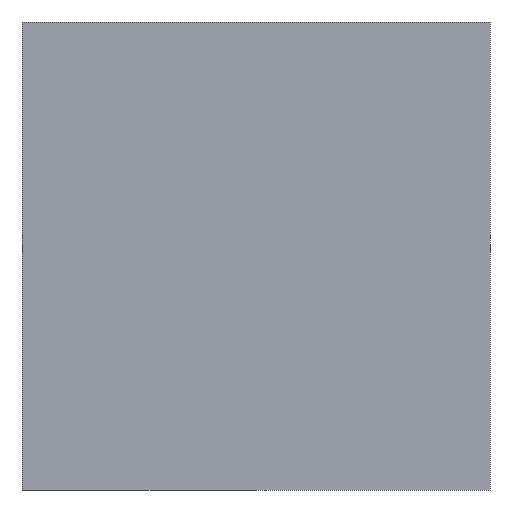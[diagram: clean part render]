
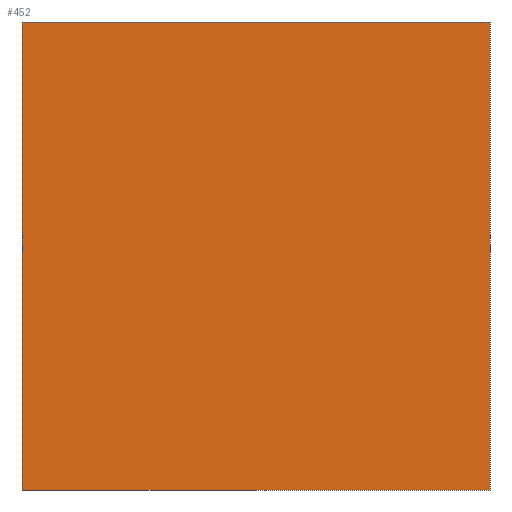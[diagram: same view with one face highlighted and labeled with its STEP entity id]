
A CAD part, left-side view. The second image highlights one B-rep face of the part: STEP entity #452.
In plain terms, the highlighted planar face has unit normal (-1, 0, 0).
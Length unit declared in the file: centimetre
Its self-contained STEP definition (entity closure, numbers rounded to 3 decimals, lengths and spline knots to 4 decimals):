
#7 = LINE ( 'NONE', #143, #449 ) ;
#11 = CARTESIAN_POINT ( 'NONE',  ( 0., 1000., 1000. ) ) ;
#19 = DIRECTION ( 'NONE',  ( 1., 0., 0. ) ) ;
#49 = CARTESIAN_POINT ( 'NONE',  ( 0., 0., 1000. ) ) ;
#50 = PLANE ( 'NONE',  #432 ) ;
#52 = LINE ( 'NONE', #49, #257 ) ;
#59 = CARTESIAN_POINT ( 'NONE',  ( 0., 1000., 0. ) ) ;
#63 = CARTESIAN_POINT ( 'NONE',  ( 0., 1000., 1000. ) ) ;
#94 = LINE ( 'NONE', #479, #296 ) ;
#98 = CARTESIAN_POINT ( 'NONE',  ( 0., 0., 1000. ) ) ;
#112 = VERTEX_POINT ( 'NONE', #98 ) ;
#121 = ORIENTED_EDGE ( 'NONE', *, *, #499, .F. ) ;
#127 = DIRECTION ( 'NONE',  ( 0., 0., -1. ) ) ;
#143 = CARTESIAN_POINT ( 'NONE',  ( 0., 1000., 1000. ) ) ;
#147 = EDGE_CURVE ( 'NONE', #112, #240, #52, .T. ) ;
#192 = EDGE_CURVE ( 'NONE', #320, #240, #415, .T. ) ;
#207 = VERTEX_POINT ( 'NONE', #63 ) ;
#210 = DIRECTION ( 'NONE',  ( 0., 0., -1. ) ) ;
#214 = DIRECTION ( 'NONE',  ( 0., -1., 0. ) ) ;
#230 = CARTESIAN_POINT ( 'NONE',  ( 0., 0., 0. ) ) ;
#240 = VERTEX_POINT ( 'NONE', #230 ) ;
#257 = VECTOR ( 'NONE', #210, 100. ) ;
#285 = VECTOR ( 'NONE', #214, 100. ) ;
#296 = VECTOR ( 'NONE', #127, 100. ) ;
#308 = EDGE_LOOP ( 'NONE', ( #434, #386, #121, #503 ) ) ;
#319 = CARTESIAN_POINT ( 'NONE',  ( 0., 1000., 0. ) ) ;
#320 = VERTEX_POINT ( 'NONE', #319 ) ;
#329 = DIRECTION ( 'NONE',  ( 0., 0., -1. ) ) ;
#372 = DIRECTION ( 'NONE',  ( 0., -1., 0. ) ) ;
#379 = FACE_OUTER_BOUND ( 'NONE', #308, .T. ) ;
#386 = ORIENTED_EDGE ( 'NONE', *, *, #147, .F. ) ;
#394 = EDGE_CURVE ( 'NONE', #207, #320, #94, .T. ) ;
#415 = LINE ( 'NONE', #59, #285 ) ;
#432 = AXIS2_PLACEMENT_3D ( 'NONE', #11, #19, #329 ) ;
#434 = ORIENTED_EDGE ( 'NONE', *, *, #192, .T. ) ;
#449 = VECTOR ( 'NONE', #372, 100. ) ;
#452 = ADVANCED_FACE ( 'NONE', ( #379 ), #50, .F. ) ;
#479 = CARTESIAN_POINT ( 'NONE',  ( 0., 1000., 1000. ) ) ;
#499 = EDGE_CURVE ( 'NONE', #207, #112, #7, .T. ) ;
#503 = ORIENTED_EDGE ( 'NONE', *, *, #394, .T. ) ;
